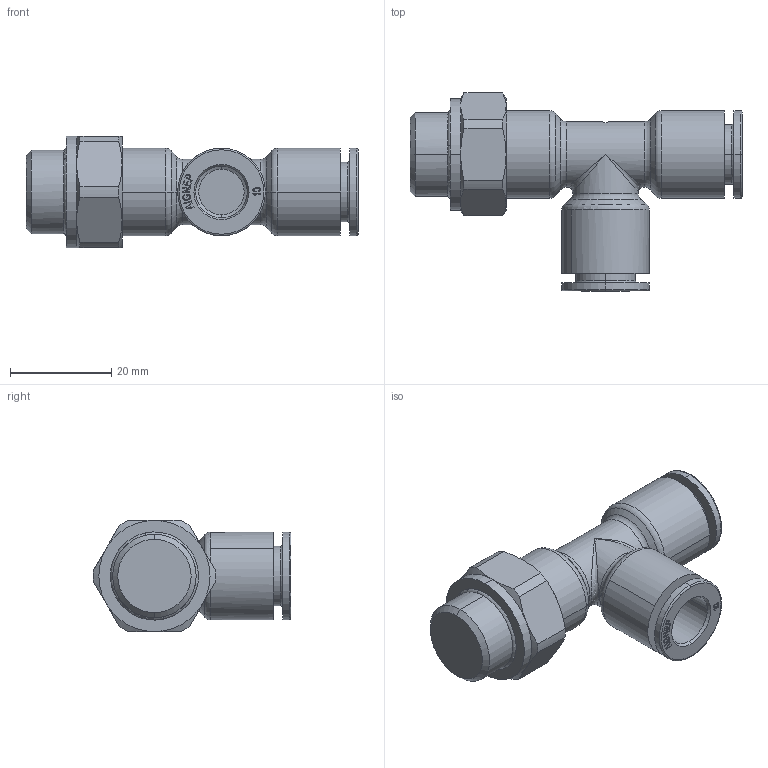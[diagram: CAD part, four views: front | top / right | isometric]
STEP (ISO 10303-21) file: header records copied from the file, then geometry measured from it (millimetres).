
FILE_DESCRIPTION (( 'STEP AP214' ), '1' );
FILE_NAME ('5422700022A.STEP', '2025-07-01T14:30:35', ( '' ), ( '' ), 'SwSTEP 2.0', 'SolidWorks 2020', '' );
FILE_SCHEMA (( 'AUTOMOTIVE_DESIGN' ));
Length unit declared in the file: millimetre
Products named in the file (1): 5422700022A
Bounding box: 65.65 x 39.15 x 22 mm (x, y, z)
Volume: 15883.6 mm3; surface area: 7428 mm2
Topology: 1 solids, 3 shells, 295 faces, 729 edges, 466 vertices
Faces by surface type: plane 153, bspline 54, cylinder 38, cone 28, torus 22
Entity records: 14936 total; most frequent: CARTESIAN_POINT 5088, ORIENTED_EDGE 1450, DIRECTION 1205, EDGE_CURVE 725, VERTEX_POINT 466, LINE 447, VECTOR 447, AXIS2_PLACEMENT_3D 379
